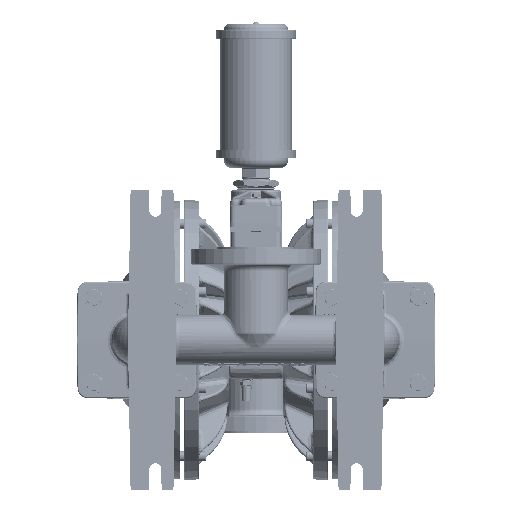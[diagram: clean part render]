
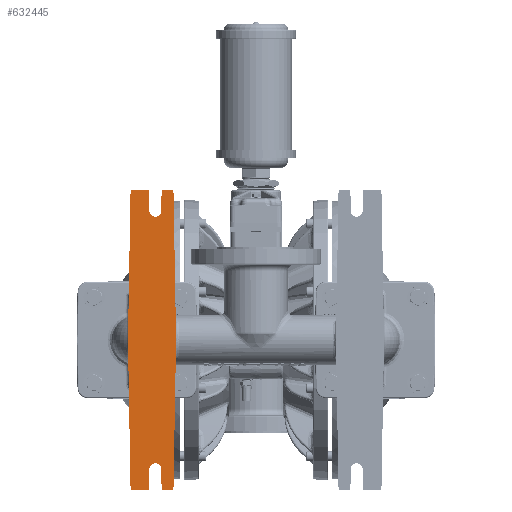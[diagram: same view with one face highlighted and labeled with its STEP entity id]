
A CAD part, front view. The second image highlights one B-rep face of the part: STEP entity #632445.
In plain terms, the highlighted planar face has unit normal (0, -1, 0).
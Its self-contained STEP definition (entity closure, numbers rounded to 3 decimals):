
#182604=DIRECTION('',(0.017,0.,1.));
#182605=VECTOR('',#182604,7.392);
#182606=CARTESIAN_POINT('',(-6.36,-14.68,0.));
#182607=LINE('',#182606,#182605);
#182890=DIRECTION('',(-1.,0.,0.));
#182891=VECTOR('',#182890,0.473);
#182892=CARTESIAN_POINT('',(-4.159,-14.68,7.45));
#182893=LINE('',#182892,#182891);
#182906=CARTESIAN_POINT('',(-4.632,-14.68,7.39));
#182907=DIRECTION('',(0.,1.,0.));
#182908=DIRECTION('',(-1.,0.,0.009));
#182909=AXIS2_PLACEMENT_3D('',#182906,#182907,#182908);
#182916=DIRECTION('',(-0.009,0.,-1.));
#182917=VECTOR('',#182916,0.973);
#182918=CARTESIAN_POINT('',(-4.692,-14.68,7.391));
#182919=LINE('',#182918,#182917);
#182932=CARTESIAN_POINT('',(-5.,-14.68,6.42));
#182933=DIRECTION('',(0.,-1.,0.));
#182934=DIRECTION('',(-1.,0.,-0.009));
#182935=AXIS2_PLACEMENT_3D('',#182932,#182933,#182934);
#183132=DIRECTION('',(-0.009,0.,1.));
#183133=VECTOR('',#183132,0.973);
#183134=CARTESIAN_POINT('',(-5.3,-14.68,6.417));
#183135=LINE('',#183134,#183133);
#183144=CARTESIAN_POINT('',(-5.368,-14.68,7.39));
#183145=DIRECTION('',(0.,1.,0.));
#183146=DIRECTION('',(0.,0.,1.));
#183147=AXIS2_PLACEMENT_3D('',#183144,#183145,#183146);
#183154=DIRECTION('',(-1.,0.,0.));
#183155=VECTOR('',#183154,0.803);
#183156=CARTESIAN_POINT('',(-5.368,-14.68,7.45));
#183157=LINE('',#183156,#183155);
#183170=CARTESIAN_POINT('',(-6.171,-14.68,7.39));
#183171=DIRECTION('',(0.,-1.,0.));
#183172=DIRECTION('',(0.,0.,1.));
#183173=AXIS2_PLACEMENT_3D('',#183170,#183171,#183172);
#183225=CARTESIAN_POINT('',(-4.159,-14.68,7.39));
#183226=DIRECTION('',(0.,1.,0.));
#183227=DIRECTION('',(0.,0.,1.));
#183228=AXIS2_PLACEMENT_3D('',#183225,#183226,#183227);
#183235=DIRECTION('',(-0.017,0.,1.));
#183236=VECTOR('',#183235,7.392);
#183237=CARTESIAN_POINT('',(-3.97,-14.68,0.));
#183238=LINE('',#183237,#183236);
#183378=DIRECTION('',(-0.017,0.,-1.));
#183379=VECTOR('',#183378,7.392);
#183380=CARTESIAN_POINT('',(-3.97,-14.68,0.));
#183381=LINE('',#183380,#183379);
#186250=DIRECTION('',(0.017,0.,-1.));
#186251=VECTOR('',#186250,7.392);
#186252=CARTESIAN_POINT('',(-6.36,-14.68,0.));
#186253=LINE('',#186252,#186251);
#186532=CARTESIAN_POINT('',(-6.171,-14.68,-7.39));
#186533=DIRECTION('',(0.,1.,0.));
#186534=DIRECTION('',(0.,0.,-1.));
#186535=AXIS2_PLACEMENT_3D('',#186532,#186533,#186534);
#186542=DIRECTION('',(1.,0.,0.));
#186543=VECTOR('',#186542,0.803);
#186544=CARTESIAN_POINT('',(-6.171,-14.68,-7.45));
#186545=LINE('',#186544,#186543);
#186558=CARTESIAN_POINT('',(-5.368,-14.68,-7.39));
#186559=DIRECTION('',(0.,1.,0.));
#186560=DIRECTION('',(1.,0.,-0.009));
#186561=AXIS2_PLACEMENT_3D('',#186558,#186559,#186560);
#186568=DIRECTION('',(0.009,0.,1.));
#186569=VECTOR('',#186568,0.973);
#186570=CARTESIAN_POINT('',(-5.308,-14.68,-7.391));
#186571=LINE('',#186570,#186569);
#186584=CARTESIAN_POINT('',(-5.,-14.68,-6.42));
#186585=DIRECTION('',(0.,-1.,0.));
#186586=DIRECTION('',(1.,0.,0.009));
#186587=AXIS2_PLACEMENT_3D('',#186584,#186585,#186586);
#186784=DIRECTION('',(0.009,0.,-1.));
#186785=VECTOR('',#186784,0.973);
#186786=CARTESIAN_POINT('',(-4.7,-14.68,-6.417));
#186787=LINE('',#186786,#186785);
#186796=CARTESIAN_POINT('',(-4.632,-14.68,-7.39));
#186797=DIRECTION('',(0.,1.,0.));
#186798=DIRECTION('',(0.,0.,-1.));
#186799=AXIS2_PLACEMENT_3D('',#186796,#186797,#186798);
#186806=DIRECTION('',(1.,0.,0.));
#186807=VECTOR('',#186806,0.473);
#186808=CARTESIAN_POINT('',(-4.632,-14.68,-7.45));
#186809=LINE('',#186808,#186807);
#186822=CARTESIAN_POINT('',(-4.159,-14.68,-7.39));
#186823=DIRECTION('',(0.,-1.,0.));
#186824=DIRECTION('',(0.,0.,-1.));
#186825=AXIS2_PLACEMENT_3D('',#186822,#186823,#186824);
#343970=CARTESIAN_POINT('',(-4.159,-14.68,7.45));
#343971=CARTESIAN_POINT('',(-4.632,-14.68,7.45));
#343972=VERTEX_POINT('',#343970);
#343973=VERTEX_POINT('',#343971);
#343974=CARTESIAN_POINT('',(-5.3,-14.68,6.417));
#343975=CARTESIAN_POINT('',(-4.7,-14.68,6.417));
#343976=VERTEX_POINT('',#343974);
#343977=VERTEX_POINT('',#343975);
#343978=CARTESIAN_POINT('',(-5.368,-14.68,7.45));
#343979=CARTESIAN_POINT('',(-6.171,-14.68,7.45));
#343980=VERTEX_POINT('',#343978);
#343981=VERTEX_POINT('',#343979);
#343982=CARTESIAN_POINT('',(-6.171,-14.68,-7.45));
#343983=CARTESIAN_POINT('',(-5.368,-14.68,-7.45));
#343984=VERTEX_POINT('',#343982);
#343985=VERTEX_POINT('',#343983);
#343986=CARTESIAN_POINT('',(-4.7,-14.68,-6.417));
#343987=CARTESIAN_POINT('',(-5.3,-14.68,-6.417));
#343988=VERTEX_POINT('',#343986);
#343989=VERTEX_POINT('',#343987);
#343990=CARTESIAN_POINT('',(-4.632,-14.68,-7.45));
#343991=CARTESIAN_POINT('',(-4.159,-14.68,-7.45));
#343992=VERTEX_POINT('',#343990);
#343993=VERTEX_POINT('',#343991);
#343994=CARTESIAN_POINT('',(-4.692,-14.68,7.391));
#343995=VERTEX_POINT('',#343994);
#343996=CARTESIAN_POINT('',(-5.308,-14.68,7.391));
#343997=VERTEX_POINT('',#343996);
#343998=CARTESIAN_POINT('',(-5.308,-14.68,-7.391));
#343999=VERTEX_POINT('',#343998);
#344000=CARTESIAN_POINT('',(-4.692,-14.68,-7.391));
#344001=VERTEX_POINT('',#344000);
#344034=CARTESIAN_POINT('',(-6.36,-14.68,0.));
#344035=CARTESIAN_POINT('',(-6.231,-14.68,7.391));
#344036=VERTEX_POINT('',#344034);
#344037=VERTEX_POINT('',#344035);
#344042=CARTESIAN_POINT('',(-6.231,-14.68,-7.391));
#344043=VERTEX_POINT('',#344042);
#344046=CARTESIAN_POINT('',(-3.97,-14.68,0.));
#344047=CARTESIAN_POINT('',(-4.099,-14.68,-7.391));
#344048=VERTEX_POINT('',#344046);
#344049=VERTEX_POINT('',#344047);
#344054=CARTESIAN_POINT('',(-4.099,-14.68,7.391));
#344055=VERTEX_POINT('',#344054);
#632395=CARTESIAN_POINT('',(-7.5,-14.68,8.94));
#632396=DIRECTION('',(0.,1.,0.));
#632397=DIRECTION('',(1.,0.,0.));
#632398=AXIS2_PLACEMENT_3D('',#632395,#632396,#632397);
#632399=PLANE('',#632398);
#632401=ORIENTED_EDGE('',*,*,#632400,.F.);
#632403=ORIENTED_EDGE('',*,*,#632402,.T.);
#632405=ORIENTED_EDGE('',*,*,#632404,.F.);
#632407=ORIENTED_EDGE('',*,*,#632406,.T.);
#632409=ORIENTED_EDGE('',*,*,#632408,.F.);
#632411=ORIENTED_EDGE('',*,*,#632410,.F.);
#632413=ORIENTED_EDGE('',*,*,#632412,.T.);
#632415=ORIENTED_EDGE('',*,*,#632414,.F.);
#632417=ORIENTED_EDGE('',*,*,#632416,.T.);
#632419=ORIENTED_EDGE('',*,*,#632418,.F.);
#632421=ORIENTED_EDGE('',*,*,#632420,.T.);
#632423=ORIENTED_EDGE('',*,*,#632422,.F.);
#632425=ORIENTED_EDGE('',*,*,#632424,.T.);
#632427=ORIENTED_EDGE('',*,*,#632426,.F.);
#632428=ORIENTED_EDGE('',*,*,#632373,.T.);
#632430=ORIENTED_EDGE('',*,*,#632429,.F.);
#632432=ORIENTED_EDGE('',*,*,#632431,.F.);
#632434=ORIENTED_EDGE('',*,*,#632433,.T.);
#632436=ORIENTED_EDGE('',*,*,#632435,.F.);
#632438=ORIENTED_EDGE('',*,*,#632437,.T.);
#632440=ORIENTED_EDGE('',*,*,#632439,.F.);
#632442=ORIENTED_EDGE('',*,*,#632441,.T.);
#632443=EDGE_LOOP('',(#632401,#632403,#632405,#632407,#632409,#632411,#632413,
#632415,#632417,#632419,#632421,#632423,#632425,#632427,#632428,#632430,#632432,
#632434,#632436,#632438,#632440,#632442));
#632444=FACE_OUTER_BOUND('',#632443,.F.);
#632445=ADVANCED_FACE('',(#632444),#632399,.F.);
#182910=CIRCLE('',#182909,0.06);
#182936=CIRCLE('',#182935,0.3);
#183148=CIRCLE('',#183147,0.06);
#183174=CIRCLE('',#183173,0.06);
#183229=CIRCLE('',#183228,0.06);
#186536=CIRCLE('',#186535,0.06);
#186562=CIRCLE('',#186561,0.06);
#186588=CIRCLE('',#186587,0.3);
#186800=CIRCLE('',#186799,0.06);
#186826=CIRCLE('',#186825,0.06);
#632373=EDGE_CURVE('',#344036,#344037,#182607,.T.);
#632400=EDGE_CURVE('',#343972,#343973,#182893,.T.);
#632402=EDGE_CURVE('',#343972,#344055,#183229,.T.);
#632404=EDGE_CURVE('',#344048,#344055,#183238,.T.);
#632406=EDGE_CURVE('',#344048,#344049,#183381,.T.);
#632408=EDGE_CURVE('',#343993,#344049,#186826,.T.);
#632410=EDGE_CURVE('',#343992,#343993,#186809,.T.);
#632412=EDGE_CURVE('',#343992,#344001,#186800,.T.);
#632414=EDGE_CURVE('',#343988,#344001,#186787,.T.);
#632416=EDGE_CURVE('',#343988,#343989,#186588,.T.);
#632418=EDGE_CURVE('',#343999,#343989,#186571,.T.);
#632420=EDGE_CURVE('',#343999,#343985,#186562,.T.);
#632422=EDGE_CURVE('',#343984,#343985,#186545,.T.);
#632424=EDGE_CURVE('',#343984,#344043,#186536,.T.);
#632426=EDGE_CURVE('',#344036,#344043,#186253,.T.);
#632429=EDGE_CURVE('',#343981,#344037,#183174,.T.);
#632431=EDGE_CURVE('',#343980,#343981,#183157,.T.);
#632433=EDGE_CURVE('',#343980,#343997,#183148,.T.);
#632435=EDGE_CURVE('',#343976,#343997,#183135,.T.);
#632437=EDGE_CURVE('',#343976,#343977,#182936,.T.);
#632439=EDGE_CURVE('',#343995,#343977,#182919,.T.);
#632441=EDGE_CURVE('',#343995,#343973,#182910,.T.);
